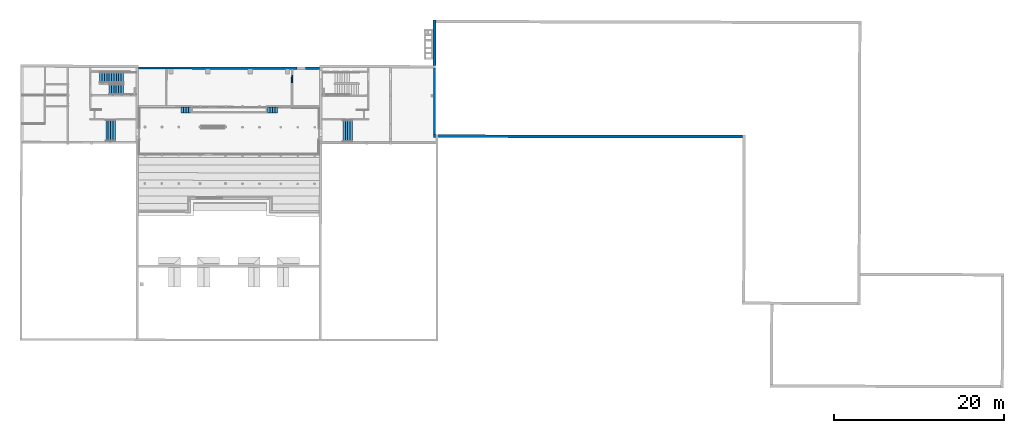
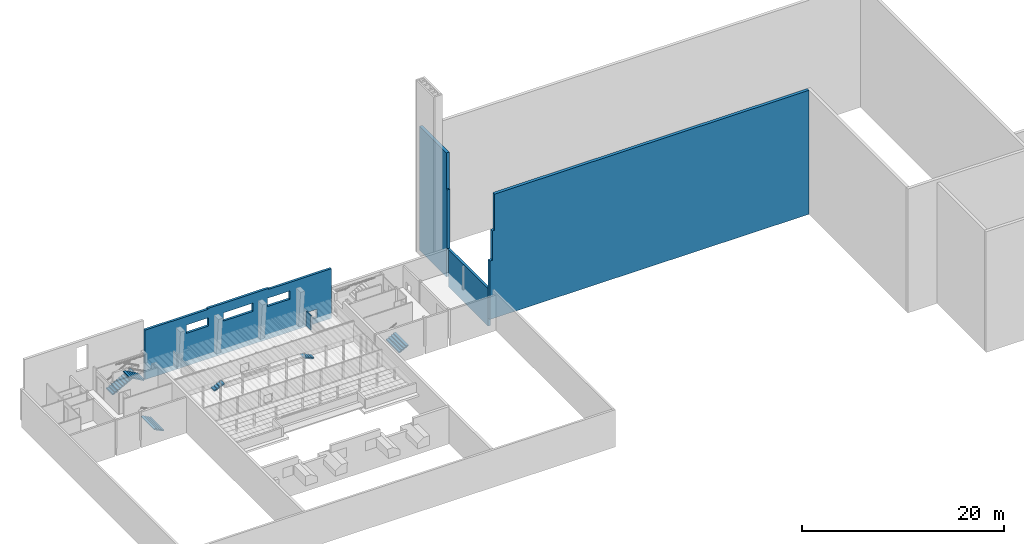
# One storey, part 19 of 24: 6 stair flights, 5 walls, 5 elements without a shape of their own.
"""IFC2X3 building model written with IfcOpenShell, lengths in metres."""

from ifc_helpers import new_model, entity, si_unit, converted_unit, derived_unit, direction, frame, origin, place, context, subcontext, project, spatial, faceted_brep, material, layer, layer_set, type_object, element, aggregate, save


model = new_model("IFC2X3")

# Units and contexts
model_context = context("Model", 3, precision=1e-05, world=origin(), true_north=direction((6.123233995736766e-17, 1.0)))
body_context = subcontext(model_context, "Body", "Model", "MODEL_VIEW")
ifc_project = project(units=[si_unit("LENGTHUNIT", "METRE"), si_unit("AREAUNIT", "SQUARE_METRE"), converted_unit("PLANEANGLEUNIT", "DEGREE", entity("IfcPlaneAngleMeasure", 0.017453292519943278), si_unit("PLANEANGLEUNIT", "RADIAN"), dimensions=[0, 0, 0, 0, 0, 0, 0]), derived_unit("THERMALTRANSMITTANCEUNIT", [(si_unit("MASSUNIT", "GRAM", prefix="KILO"), 1), (si_unit("THERMODYNAMICTEMPERATUREUNIT", "KELVIN"), -1), (si_unit("TIMEUNIT", "SECOND"), -3)])], contexts=[model_context])

# Site, building, storey
site_placement = place(None, frame((1253.6752467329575, 2072.143113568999, 91.49999999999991), z_axis=(0.0, 0.0, 1.0), x_axis=(0.7237211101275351, 0.6900925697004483, 0.0)))
site = spatial("IfcSite", under=ifc_project, at=site_placement, Name="Surface", CompositionType="ELEMENT")
building_placement = place(site_placement, origin())
building = spatial("IfcBuilding", under=site, at=building_placement, CompositionType="ELEMENT")
storey_placement = place(building_placement, frame((0.0, 0.0, -7.049999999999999)))
storey = spatial("IfcBuildingStorey", under=building, at=storey_placement, Name="R-1", CompositionType="ELEMENT", Elevation=-7.049999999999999)

# Walls
ifc_material_1 = material(Name="OMD_Béton blanc")
ifc_layer_1 = layer(ifc_material_1, 0.35)
ifc_layer_set_1 = layer_set([ifc_layer_1], Name="Mur de base:MUR 35")
wall_type_1 = type_object("IfcWallType", Name="Mur de base:MUR 35", PredefinedType="STANDARD", material=ifc_layer_set_1)
wall_1_placement = place(storey_placement, frame((201.31510153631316, -6.084871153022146, 0.0), z_axis=(0.0, 0.0, 1.0), x_axis=(0.6919753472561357, 0.7219211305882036, 0.0)))
element("IfcWall", 1, at=wall_1_placement, inside=storey, type_object=wall_type_1, Name="Mur de base:MUR 35", ObjectType="Mur de base:MUR 35", context=body_context, shape_type="Brep", body=[
    faceted_brep([(0.1761861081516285, -0.17500000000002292, 0.0), (5.16187984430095, -0.1750000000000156, 0.0), (5.511879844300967, -0.17500000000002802, 0.0), (5.511879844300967, -0.17500000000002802, 14.949999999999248), (5.16187984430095, -0.1750000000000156, 14.94999999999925), (0.17524036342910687, -0.17500000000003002, 14.949999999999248), (0.1752403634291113, -0.17500000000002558, 10.599999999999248), (0.0, -0.17500000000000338, 10.59999999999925), (0.0, -0.17500000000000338, 3.4999999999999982), (0.17618610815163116, -0.17500000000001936, 3.4999999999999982), (0.17618610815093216, 0.1749999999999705, 0.0), (0.17618610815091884, 0.1749999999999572, 3.4999999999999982), (0.0, 0.1749999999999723, 3.4999999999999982), (0.0, 0.1749999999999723, 10.599999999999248), (0.17475996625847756, 0.17499999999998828, 10.59999999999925), (0.17475996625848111, 0.17499999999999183, 14.949999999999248), (0.2059515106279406, 0.1749999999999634, 14.949999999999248), (0.25595154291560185, 0.1749999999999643, 14.949999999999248), (5.511879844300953, 0.1749999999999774, 14.949999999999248), (5.511879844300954, 0.17499999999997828, 0.0), (0.17618610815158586, -0.14126202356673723, 3.4999999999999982)], [[[0, 1, 2, 3, 4, 5, 6, 7, 8, 9]], [[10, 11, 12, 13, 14, 15, 16, 17, 18, 19]], [[5, 4, 3, 18, 17, 16, 15]], [[2, 1, 0, 10, 19]], [[3, 2, 19, 18]], [[8, 12, 11, 20, 9]], [[7, 13, 12, 8]], [[6, 14, 13, 7]], [[0, 9, 20, 11, 10]], [[6, 5, 15, 14]]]),
])
wall_2_placement = place(storey_placement, frame((221.90692549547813, -37.0680087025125, 0.0), z_axis=(0.0, 0.0, 1.0), x_axis=(-0.7228702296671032, 0.6909838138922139, 0.0)))
element("IfcWall", 2, at=wall_2_placement, inside=storey, type_object=wall_type_1, Name="Mur de base:MUR 35", ObjectType="Mur de base:MUR 35", context=body_context, shape_type="Brep", body=[
    faceted_brep([(35.86785067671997, -0.17499999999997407, 14.94999999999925), (0.0, -0.17500000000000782, 14.94999999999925), (0.0, -0.17500000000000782, 0.0), (36.41255934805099, -0.17500000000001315, 0.0), (36.41255934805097, -0.17499999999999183, 3.4999999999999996), (36.412559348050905, -0.17499999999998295, 7.0499999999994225), (36.11255934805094, -0.1750000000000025, 7.0499999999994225), (36.11255934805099, -0.1749999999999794, 10.59999999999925), (35.86785067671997, -0.17499999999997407, 10.599999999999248), (0.0004803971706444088, 0.17500000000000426, 14.94999999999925), (35.86785067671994, 0.17499999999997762, 14.94999999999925), (35.86785067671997, 0.17500000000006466, 10.59999999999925), (36.11255934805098, 0.17499999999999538, 10.599999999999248), (36.112559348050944, 0.1749999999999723, 7.0499999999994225), (36.217850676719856, 0.17499999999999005, 7.0499999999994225), (36.412559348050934, 0.1750000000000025, 7.0499999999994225), (36.41255934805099, 0.1749999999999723, 0.0), (0.0004803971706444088, 0.17500000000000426, 0.0), (35.86785067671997, 0.0, 14.94999999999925), (36.11255934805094, -0.1306271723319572, 7.0499999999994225), (36.112559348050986, -0.13062717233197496, 10.59999999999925), (35.86785067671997, 0.0, 10.59999999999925)], [[[0, 1, 2, 3, 4, 5, 6, 7, 8]], [[9, 10, 11, 12, 13, 14, 15, 16, 17]], [[1, 0, 18, 10, 9]], [[3, 2, 17, 16]], [[2, 1, 9, 17]], [[6, 5, 15, 14, 13, 19]], [[8, 7, 20, 12, 11, 21]], [[3, 16, 15, 5, 4]], [[7, 6, 19, 13, 12, 20]], [[10, 18, 0, 8, 21, 11]]]),
])
ifc_layer_2 = layer(ifc_material_1, 0.25999999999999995)
ifc_layer_set_2 = layer_set([ifc_layer_2], Name="Mur de base:MUR 26")
wall_type_2 = type_object("IfcWallType", Name="Mur de base:MUR 26", PredefinedType="STANDARD", material=ifc_layer_set_2)
wall_3_placement = place(storey_placement, frame((201.23797613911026, -6.182203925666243, -1.0), z_axis=(0.0, 0.0, 1.0), x_axis=(-0.6909838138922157, -0.7228702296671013, 0.0)))
element("IfcWall", 3, at=wall_3_placement, inside=storey, type_object=wall_type_2, Name="Mur de base:MUR 26", ObjectType="Mur de base:MUR 26", context=body_context, shape_type="Brep", body=[
    faceted_brep([(0.0, -0.12999999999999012, 0.0), (7.86951933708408, -0.12999999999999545, 0.0), (7.86951933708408, -0.12999999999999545, 1.0), (7.86951933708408, -0.12999999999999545, 4.499999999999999), (2.6088921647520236, -0.13000000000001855, 4.499999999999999), (1.0588921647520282, -0.12999999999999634, 4.499999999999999), (0.0, -0.12999999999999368, 4.499999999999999), (0.0003568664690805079, 0.1299999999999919, 0.0), (0.0003568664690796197, 0.129999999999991, 4.499999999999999), (7.869519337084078, 0.130000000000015, 4.499999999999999), (7.86951933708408, 0.130000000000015, 0.0), (-0.17500781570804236, -0.129999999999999, 4.499999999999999), (-0.17500781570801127, 0.12999999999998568, 4.499999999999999)], [[[0, 1, 2, 3, 4, 5, 6]], [[7, 8, 9, 10]], [[11, 6, 5, 4, 3, 9, 8, 12]], [[1, 0, 7, 10]], [[11, 12, 8, 6]], [[0, 6, 8, 7]], [[1, 10, 9, 3, 2]]]),
])
ifc_layer_3 = layer(ifc_material_1, 0.12999999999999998)
ifc_layer_set_3 = layer_set([ifc_layer_3], Name="Mur de base:MUR 13")
wall_type_3 = type_object("IfcWallType", Name="Mur de base:MUR 13", PredefinedType="STANDARD", material=ifc_layer_set_3)
wall_4_placement = place(storey_placement, frame((188.48342246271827, 4.766489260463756, 0.6500000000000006), z_axis=(0.0, 0.0, 1.0), x_axis=(-0.6919753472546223, -0.7219211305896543, 0.0)))
element("IfcWall", 4, at=wall_4_placement, inside=storey, type_object=wall_type_3, Name="Mur de base:MUR 13", ObjectType="Mur de base:MUR 13", context=body_context, shape_type="Brep", body=[
    faceted_brep([(0.8999999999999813, -0.0650000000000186, 1.7427777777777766), (0.0, -0.0650000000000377, 1.7427777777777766), (0.0, -0.06500000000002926, 0.0), (0.8999999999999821, -0.06500000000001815, 0.0), (0.0, 0.0649999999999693, 1.7427777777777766), (0.899999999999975, 0.06499999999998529, 1.7427777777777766), (0.8999999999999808, 0.06499999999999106, 0.0), (0.0, 0.06499999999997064, 0.0)], [[[0, 1, 2, 3]], [[4, 5, 6, 7]], [[3, 6, 5, 0]], [[7, 2, 1, 4]], [[6, 3, 2, 7]], [[1, 0, 5, 4]]]),
])
ifc_layer_4 = layer(ifc_material_1, 0.27)
ifc_layer_set_4 = layer_set([ifc_layer_4], Name="Mur de base:MUR 27")
wall_type_4 = type_object("IfcWallType", Name="Mur de base:MUR 27", PredefinedType="STANDARD", material=ifc_layer_set_4)
wall_5_placement = place(storey_placement, frame((176.00588545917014, 17.84849499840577, 0.0), z_axis=(0.0, 0.0, 1.0), x_axis=(0.7228702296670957, -0.6909838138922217, 0.0)))
element("IfcWall", 5, at=wall_5_placement, inside=storey, type_object=wall_type_4, Name="Mur de base:MUR 27", ObjectType="Mur de base:MUR 27", context=body_context, shape_type="Brep", body=[
    faceted_brep([(21.28624026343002, -0.13500000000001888, 5.9781175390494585), (14.117179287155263, -0.1350000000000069, 5.9781175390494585), (14.117179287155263, -0.1350000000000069, 6.096699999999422), (7.182229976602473, -0.134999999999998, 6.096699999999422), (7.182229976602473, -0.134999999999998, 5.978117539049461), (0.0, -0.13499999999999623, 5.978117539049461), (0.0, -0.13499999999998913, 0.0), (3.205054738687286, -0.134999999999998, 0.0), (3.335054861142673, -0.13500000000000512, 0.0), (17.9950547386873, -0.13500000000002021, 0.0), (18.125054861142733, -0.1350000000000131, 0.0), (21.286240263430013, -0.135000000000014, 0.0), (14.008519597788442, -0.1349999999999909, 3.9503999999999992), (14.008519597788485, -0.13500000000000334, 4.950399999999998), (16.538519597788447, -0.13499999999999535, 4.950399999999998), (16.538519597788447, -0.13499999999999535, 3.9503999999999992), (4.7431264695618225, -0.1349999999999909, 3.9499999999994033), (4.7431264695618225, -0.1349999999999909, 4.949999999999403), (7.2731264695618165, -0.134999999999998, 4.949999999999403), (7.273126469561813, -0.13499999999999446, 3.9499999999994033), (8.95847273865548, -0.1349999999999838, 3.9499999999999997), (8.95847273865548, -0.13499999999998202, 4.949999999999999), (12.328472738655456, -0.13499999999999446, 4.949999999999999), (12.328472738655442, -0.13499999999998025, 3.9499999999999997), (19.64293058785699, -0.13499999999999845, 1.6500000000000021), (19.642930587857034, -0.13499999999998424, 0.6500000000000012), (18.642930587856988, -0.13500000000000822, 0.6500000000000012), (18.642930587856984, -0.13500000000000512, 1.6500000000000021), (14.116808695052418, 0.1350000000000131, 5.9781175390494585), (21.28637159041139, 0.13499999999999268, 5.9781175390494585), (21.28637159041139, 0.13499999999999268, 5.969999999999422), (21.286371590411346, 0.13500000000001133, 0.0), (0.0, 0.13499999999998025, 0.0), (0.0, 0.13500000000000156, 5.978117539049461), (7.182600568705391, 0.13499999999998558, 5.978117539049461), (7.182600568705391, 0.13499999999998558, 6.096699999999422), (14.116808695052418, 0.1350000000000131, 6.096699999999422), (14.00851959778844, 0.13499999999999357, 4.950399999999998), (14.008519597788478, 0.13500000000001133, 3.9503999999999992), (16.538519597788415, 0.13499999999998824, 3.9503999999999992), (16.538519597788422, 0.13499999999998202, 4.950399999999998), (4.743126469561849, 0.1350000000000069, 4.949999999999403), (4.743126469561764, 0.13499999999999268, 3.9499999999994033), (7.273126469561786, 0.13499999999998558, 3.9499999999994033), (7.273126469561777, 0.13499999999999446, 4.949999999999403), (8.958472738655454, 0.134999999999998, 4.949999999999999), (8.958472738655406, 0.13499999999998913, 3.9499999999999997), (12.328472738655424, 0.13499999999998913, 3.9499999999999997), (12.328472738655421, 0.13499999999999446, 4.949999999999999), (19.642930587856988, 0.1350000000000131, 0.6500000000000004), (19.642930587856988, 0.13500000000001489, 1.6500000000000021), (18.642930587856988, 0.13500000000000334, 1.6500000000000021), (18.64293058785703, 0.13499999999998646, 0.6500000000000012)], [[[0, 1, 2, 3, 4, 5, 6, 7, 8, 9, 10, 11], [12, 13, 14, 15], [16, 17, 18, 19], [20, 21, 22, 23], [24, 25, 26, 27]], [[28, 29, 30, 31, 32, 33, 34, 35, 36], [37, 38, 39, 40], [41, 42, 43, 44], [45, 46, 47, 48], [49, 50, 51, 52]], [[1, 0, 29, 28]], [[11, 10, 9, 8, 7, 6, 32, 31]], [[0, 11, 31, 30, 29]], [[37, 13, 12, 38]], [[38, 12, 15, 39]], [[39, 15, 14, 40]], [[13, 37, 40, 14]], [[41, 17, 16, 42]], [[42, 16, 19, 43]], [[43, 19, 18, 44]], [[17, 41, 44, 18]], [[6, 5, 33, 32]], [[45, 21, 20, 46]], [[46, 20, 23, 47]], [[47, 23, 22, 48]], [[21, 45, 48, 22]], [[3, 2, 36, 35]], [[5, 4, 34, 33]], [[4, 3, 35, 34]], [[2, 1, 28, 36]], [[24, 50, 49, 25]], [[25, 49, 52, 26]], [[26, 52, 51, 27]], [[50, 24, 27, 51]]]),
])

# Stair, stair flight
type_product_1 = type_object("IfcTypeProduct")
stair_1_placement = place(storey_placement, origin())
stair_1 = element("IfcStair", 6, at=stair_1_placement, inside=storey, type_object=type_product_1, Name="Escalier coulé sur place:Escalier", ShapeType="STRAIGHT_RUN_STAIR")
ifc_material_2 = material(Name="<Unnamed>")
stair_flight_type = type_object("IfcStairFlightType", Name="Volée monobloc:Nez de marche 5 mm", PredefinedType="STRAIGHT")
stair_flight_1_placement = place(stair_1_placement, frame((167.22680691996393, 13.48290155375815, 0.0)))
stair_flight_1 = element("IfcStairFlight", 7, at=stair_flight_1_placement, type_object=stair_flight_type, material=ifc_material_2, Name="Escalier coulé sur place:Escalier:3285199 Run 1", ObjectType="Volée monobloc:Nez de marche 5 mm", NumberOfRiser=5, NumberOfTreads=4, RiserHeight=0.4790026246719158, TreadLength=0.9186351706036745, context=body_context, shape_type="Brep", body=[
    faceted_brep([(0.6028041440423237, 0.19375309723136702, 0.1460000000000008), (0.8049420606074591, 0.0, 0.1460000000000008), (2.593701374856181, 1.866169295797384, 0.1460000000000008), (2.391563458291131, 2.0599223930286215, 0.1460000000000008), (0.6028041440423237, 0.19375309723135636, 0.0557775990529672), (0.6800285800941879, 0.11973198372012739, 0.0), (0.8049420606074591, 0.0, 0.0), (2.593701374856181, 1.866169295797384, 0.0), (2.468787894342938, 1.9859012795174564, 0.0), (2.3915634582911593, 2.0599223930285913, 0.05577759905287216), (0.40066622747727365, 0.38750619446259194, 0.2919999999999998), (0.602804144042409, 0.1937530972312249, 0.2919999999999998), (2.391563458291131, 2.059922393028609, 0.2919999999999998), (2.1894255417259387, 2.2536754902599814, 0.2919999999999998), (0.4006662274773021, 0.38750619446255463, 0.2017775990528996), (2.1894255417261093, 2.253675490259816, 0.20177759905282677), (0.19852831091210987, 0.5812592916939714, 0.4379999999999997), (0.40066622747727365, 0.38750619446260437, 0.4379999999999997), (2.189425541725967, 2.2536754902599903, 0.4379999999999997), (1.9872876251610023, 2.4474285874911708, 0.4379999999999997), (0.19852831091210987, 0.5812592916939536, 0.34777759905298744), (1.987287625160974, 2.4474285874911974, 0.3477775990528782), (0.0, 0.7715525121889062, 0.5839999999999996), (0.19852831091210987, 0.5812592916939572, 0.5839999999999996), (1.987287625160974, 2.447428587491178, 0.5839999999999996), (1.788759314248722, 2.6377218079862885, 0.5839999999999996), (0.0, 0.7715525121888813, 0.49117045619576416), (1.788759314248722, 2.6377218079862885, 0.4911704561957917)], [[[0, 1, 2, 3]], [[1, 0, 4, 5, 6]], [[2, 1, 6, 7]], [[3, 2, 7, 8, 9]], [[10, 11, 12, 13]], [[11, 10, 14, 4, 0]], [[0, 3, 12, 11]], [[13, 12, 3, 9, 15]], [[16, 17, 18, 19]], [[17, 16, 20, 14, 10]], [[10, 13, 18, 17]], [[19, 18, 13, 15, 21]], [[22, 23, 24, 25]], [[23, 22, 26, 20, 16]], [[16, 19, 24, 23]], [[25, 24, 19, 21, 27]], [[22, 25, 27, 26]], [[7, 6, 5, 8]], [[8, 5, 4, 14, 20, 26, 27, 21, 15, 9]]]),
])
aggregate(stair_1, [stair_flight_1])

stair_2_placement = place(storey_placement, origin())
stair_2 = element("IfcStair", 8, at=stair_2_placement, inside=storey, type_object=type_product_1, Name="Escalier coulé sur place:Escalier", ShapeType="STRAIGHT_RUN_STAIR")
stair_flight_2_placement = place(stair_2_placement, frame((187.41370287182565, -5.813504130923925, 0.0)))
stair_flight_2 = element("IfcStairFlight", 9, at=stair_flight_2_placement, type_object=stair_flight_type, material=ifc_material_2, Name="Escalier coulé sur place:Escalier:3285236 Run 1", ObjectType="Volée monobloc:Nez de marche 5 mm", NumberOfRiser=5, NumberOfTreads=4, RiserHeight=0.4790026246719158, TreadLength=0.9186351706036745, context=body_context, shape_type="Brep", body=[
    faceted_brep([(1.9885998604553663, 2.4455942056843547, 0.1460000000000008), (1.7861961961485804, 2.639069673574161, 0.1460000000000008), (0.0, 0.7704469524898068, 0.1460000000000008), (0.20240366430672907, 0.5769714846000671, 0.1460000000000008), (0.0, 0.7704469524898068, 0.0), (0.12507770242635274, 0.6508865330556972, 0.0), (0.2024036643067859, 0.5769714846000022, 0.055777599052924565), (1.7861961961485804, 2.639069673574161, 0.0), (1.9885998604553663, 2.4455942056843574, 0.05577759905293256), (1.9112738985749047, 2.519509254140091, 0.0), (2.1910035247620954, 2.252118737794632, 0.2919999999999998), (1.9885998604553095, 2.445594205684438, 0.2919999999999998), (0.20240366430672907, 0.576971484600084, 0.2919999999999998), (0.40480732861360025, 0.38349601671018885, 0.2919999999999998), (0.404807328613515, 0.38349601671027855, 0.20177759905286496), (2.1910035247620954, 2.2521187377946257, 0.20177759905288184), (2.393407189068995, 2.0586432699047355, 0.4379999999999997), (2.191003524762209, 2.2521187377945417, 0.4379999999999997), (0.40480732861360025, 0.38349601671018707, 0.4379999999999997), (0.6072109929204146, 0.190020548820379, 0.4379999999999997), (0.6072109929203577, 0.19002054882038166, 0.34777759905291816), (2.393407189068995, 2.0586432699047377, 0.34777759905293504), (2.592196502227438, 1.8686227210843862, 0.5839999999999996), (2.393407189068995, 2.0586432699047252, 0.5839999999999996), (0.6072109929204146, 0.190020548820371, 0.5839999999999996), (0.8060003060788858, 0.0, 0.5839999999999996), (0.8060003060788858, 0.0, 0.4911704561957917), (2.5921965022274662, 1.8686227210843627, 0.4911704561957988)], [[[0, 1, 2, 3]], [[3, 2, 4, 5, 6]], [[2, 1, 7, 4]], [[1, 0, 8, 9, 7]], [[10, 11, 12, 13]], [[13, 12, 3, 6, 14]], [[0, 3, 12, 11]], [[11, 10, 15, 8, 0]], [[16, 17, 18, 19]], [[19, 18, 13, 14, 20]], [[10, 13, 18, 17]], [[17, 16, 21, 15, 10]], [[22, 23, 24, 25]], [[25, 24, 19, 20, 26]], [[16, 19, 24, 23]], [[23, 22, 27, 21, 16]], [[22, 25, 26, 27]], [[4, 7, 9, 5]], [[5, 9, 8, 15, 21, 27, 26, 20, 14, 6]]]),
])
aggregate(stair_2, [stair_flight_2])

type_product_2 = type_object("IfcTypeProduct")
stair_3_placement = place(storey_placement, origin())
stair_3 = element("IfcStair", 10, at=stair_3_placement, inside=storey, type_object=type_product_2, Name="Escalier coulé sur place:Escalier", ShapeType="STRAIGHT_RUN_STAIR")
stair_flight_3_placement = place(stair_3_placement, frame((183.32513328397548, 2.7416025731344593, 0.0)))
stair_flight_3 = element("IfcStairFlight", 11, at=stair_flight_3_placement, type_object=stair_flight_type, material=ifc_material_2, Name="Escalier coulé sur place:Escalier:3285303 Run 1", ObjectType="Volée monobloc:Nez de marche 5 mm", NumberOfRiser=5, NumberOfTreads=4, RiserHeight=0.4265091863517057, TreadLength=0.9842519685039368, context=body_context, shape_type="Brep", body=[
    faceted_brep([(0.64611941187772, 0.20759260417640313, 0.1299999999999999), (0.8626957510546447, 0.0, 0.1299999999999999), (1.3471426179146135, 0.5054116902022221, 0.1299999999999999), (1.1305662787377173, 0.713004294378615, 0.1299999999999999), (0.6461194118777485, 0.20759260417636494, 0.042811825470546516), (0.7174427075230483, 0.13922784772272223, 0.0), (0.8626957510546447, 0.0, 0.0), (1.3471426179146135, 0.5054116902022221, 0.0), (1.201889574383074, 0.6446395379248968, 0.0), (1.1305662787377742, 0.7130042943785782, 0.04281182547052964), (0.4295430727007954, 0.4151852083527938, 0.2599999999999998), (0.64611941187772, 0.20759260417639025, 0.2599999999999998), (1.130566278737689, 0.7130042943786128, 0.2599999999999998), (0.9139899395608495, 0.920596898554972, 0.2599999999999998), (0.42954307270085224, 0.41518520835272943, 0.17281182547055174), (0.9139899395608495, 0.9205968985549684, 0.17281182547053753), (0.21296673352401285, 0.6227778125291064, 0.3028118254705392), (0.0, 0.8269105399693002, 0.43064515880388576), (0.4844468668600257, 1.3323222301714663, 0.4306451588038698), (0.6974136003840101, 1.128189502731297, 0.30281182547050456), (0.21296673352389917, 0.6227778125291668, 0.39000000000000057), (0.4295430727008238, 0.4151852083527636, 0.39000000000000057), (0.9139899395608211, 0.9205968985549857, 0.39000000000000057), (0.6974136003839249, 1.128189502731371, 0.39000000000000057), (0.0, 0.8269105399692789, 0.5199999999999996), (0.21296673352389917, 0.6227778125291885, 0.5199999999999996), (0.6974136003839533, 1.1281895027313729, 0.5199999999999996), (0.48444686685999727, 1.3323222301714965, 0.5199999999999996)], [[[0, 1, 2, 3]], [[1, 0, 4, 5, 6]], [[2, 1, 6, 7]], [[3, 2, 7, 8, 9]], [[10, 11, 12, 13]], [[11, 10, 14, 4, 0]], [[0, 3, 12, 11]], [[13, 12, 3, 9, 15]], [[7, 6, 5, 8]], [[8, 5, 4, 14, 16, 17, 18, 19, 15, 9]], [[20, 21, 22, 23]], [[21, 20, 16, 14, 10]], [[10, 13, 22, 21]], [[23, 22, 13, 15, 19]], [[24, 25, 26, 27]], [[25, 24, 17, 16, 20]], [[20, 23, 26, 25]], [[27, 26, 23, 19, 18]], [[24, 27, 18, 17]]]),
])
aggregate(stair_3, [stair_flight_3])

stair_4_placement = place(storey_placement, origin())
stair_4 = element("IfcStair", 12, at=stair_4_placement, inside=storey, type_object=type_product_2, Name="Escalier coulé sur place:Escalier", ShapeType="STRAIGHT_RUN_STAIR")
stair_flight_4_placement = place(stair_4_placement, frame((175.95572253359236, 9.786044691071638, 0.0)))
stair_flight_4 = element("IfcStairFlight", 13, at=stair_flight_4_placement, type_object=stair_flight_type, material=ifc_material_2, Name="Escalier coulé sur place:Escalier:3285306 Run 1", ObjectType="Volée monobloc:Nez de marche 5 mm", NumberOfRiser=5, NumberOfTreads=4, RiserHeight=0.4265091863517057, TreadLength=0.9842519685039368, context=body_context, shape_type="Brep", body=[
    faceted_brep([(0.7002030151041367, 1.1242815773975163, 0.1299999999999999), (0.4830576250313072, 1.3312788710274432, 0.1299999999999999), (0.0, 0.8245392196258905, 0.1299999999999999), (0.2171453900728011, 0.6175419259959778, 0.1299999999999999), (0.0, 0.8245392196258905, 0.0), (0.1456346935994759, 0.6857106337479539, 0.0), (0.2171453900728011, 0.6175419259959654, 0.04281182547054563), (0.4830576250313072, 1.3312788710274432, 0.0), (0.7002030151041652, 1.1242815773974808, 0.04281182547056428), (0.6286923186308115, 1.192450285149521, 0.0), (0.9173484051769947, 0.9172842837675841, 0.2599999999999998), (0.7002030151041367, 1.124281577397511, 0.2599999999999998), (0.2171453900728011, 0.6175419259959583, 0.2599999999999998), (0.4342907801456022, 0.41054463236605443, 0.2599999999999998), (0.4342907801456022, 0.4105446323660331, 0.17281182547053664), (0.9173484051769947, 0.9172842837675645, 0.17281182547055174), (1.1344937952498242, 0.7102869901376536, 0.3028118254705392), (1.348020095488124, 0.5067396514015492, 0.4306451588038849), (0.8649624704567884, 0.0, 0.43064515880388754), (0.6514361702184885, 0.2035473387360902, 0.3028118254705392), (1.1344937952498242, 0.7102869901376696, 0.39000000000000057), (0.9173484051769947, 0.9172842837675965, 0.39000000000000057), (0.4342907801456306, 0.41054463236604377, 0.39000000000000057), (0.6514361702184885, 0.20354733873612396, 0.39000000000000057), (1.348020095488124, 0.506739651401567, 0.5199999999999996), (1.1344937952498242, 0.7102869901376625, 0.5199999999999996), (0.6514361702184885, 0.20354733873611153, 0.5199999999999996), (0.8649624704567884, 0.0, 0.5199999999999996)], [[[0, 1, 2, 3]], [[3, 2, 4, 5, 6]], [[2, 1, 7, 4]], [[1, 0, 8, 9, 7]], [[10, 11, 12, 13]], [[13, 12, 3, 6, 14]], [[0, 3, 12, 11]], [[11, 10, 15, 8, 0]], [[4, 7, 9, 5]], [[5, 9, 8, 15, 16, 17, 18, 19, 14, 6]], [[20, 21, 22, 23]], [[23, 22, 13, 14, 19]], [[10, 13, 22, 21]], [[21, 20, 16, 15, 10]], [[24, 25, 26, 27]], [[27, 26, 23, 19, 18]], [[20, 23, 26, 25]], [[25, 24, 17, 16, 20]], [[24, 27, 18, 17]]]),
])
aggregate(stair_4, [stair_flight_4])

# Stair, stair flights
type_product_3 = type_object("IfcTypeProduct", Name="Escalier coulé sur place:Monobloc")
stair_5_placement = place(storey_placement, origin())
stair_5 = element("IfcStair", 14, at=stair_5_placement, inside=storey, type_object=type_product_3, Name="Escalier coulé sur place:Escalier", ObjectType="Escalier coulé sur place:Monobloc", ShapeType="NOTDEFINED")
stair_flight_5_placement = place(stair_5_placement, frame((171.48854165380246, 17.839274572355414, 0.0)))
stair_flight_5 = element("IfcStairFlight", 15, at=stair_flight_5_placement, type_object=stair_flight_type, material=ifc_material_2, Name="Escalier coulé sur place:Escalier:3291574 Run 1", ObjectType="Volée monobloc:Nez de marche 5 mm", NumberOfRiser=11, NumberOfTreads=10, RiserHeight=0.5048848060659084, TreadLength=0.9186351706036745, context=body_context, shape_type="Brep", body=[
    faceted_brep([(1.066133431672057, 2.6448669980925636, 0.8838888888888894), (0.8637297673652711, 2.838342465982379, 0.8838888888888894), (0.0, 1.9347546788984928, 0.8838888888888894), (0.2024036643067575, 1.7412792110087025, 0.8838888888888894), (0.0, 1.9347546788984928, 0.7299999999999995), (0.1200652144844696, 1.8199856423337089, 0.72999999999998), (0.2024036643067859, 1.741279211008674, 0.7926024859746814), (0.8637297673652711, 2.838342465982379, 0.7299999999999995), (1.066133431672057, 2.6448669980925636, 0.7926024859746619), (0.9837949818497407, 2.723573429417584, 0.7299999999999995), (1.2685370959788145, 2.451391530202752, 1.0377777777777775), (1.0661334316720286, 2.6448669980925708, 1.0377777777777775), (0.2024036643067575, 1.7412792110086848, 1.0377777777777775), (0.404807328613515, 1.547803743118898, 1.0377777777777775), (0.4048073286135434, 1.547803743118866, 0.9464913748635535), (1.268537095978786, 2.45139153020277, 0.9464913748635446), (1.470940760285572, 2.257916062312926, 1.1916666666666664), (1.268537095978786, 2.451391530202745, 1.1916666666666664), (0.404807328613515, 1.547803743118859, 1.1916666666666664), (0.6072109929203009, 1.3543282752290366, 1.1916666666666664), (0.6072109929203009, 1.3543282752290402, 1.1003802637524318), (1.470940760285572, 2.2579160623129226, 1.1003802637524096), (1.6733444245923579, 2.0644405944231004, 1.3455555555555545), (1.470940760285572, 2.257916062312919, 1.3455555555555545), (0.6072109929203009, 1.354328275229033, 1.3455555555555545), (0.8096146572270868, 1.1608528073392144, 1.3455555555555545), (0.8096146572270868, 1.1608528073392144, 1.2542691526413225), (1.6733444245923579, 2.0644405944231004, 1.2542691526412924), (1.8757480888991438, 1.8709651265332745, 1.4994444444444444), (1.6733444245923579, 2.0644405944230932, 1.4994444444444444), (0.8096146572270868, 1.1608528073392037, 1.4994444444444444), (1.0120183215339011, 0.9673773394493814, 1.4994444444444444), (1.0120183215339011, 0.9673773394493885, 1.408158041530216), (1.8757480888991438, 1.870965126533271, 1.4081580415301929), (2.0781517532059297, 1.6774896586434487, 1.6533333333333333), (1.8757480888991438, 1.8709651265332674, 1.6533333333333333), (1.0120183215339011, 0.9673773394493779, 1.6533333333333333), (1.214421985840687, 0.7739018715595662, 1.6533333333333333), (1.214421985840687, 0.7739018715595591, 1.5620469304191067), (2.0781517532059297, 1.6774896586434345, 1.5620469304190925), (2.2805554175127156, 1.4840141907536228, 1.8072222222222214), (2.0781517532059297, 1.677489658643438, 1.8072222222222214), (1.214421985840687, 0.773901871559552, 1.8072222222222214), (1.416825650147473, 0.5804264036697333, 1.8072222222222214), (1.416825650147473, 0.5804264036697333, 1.7159358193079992), (2.2805554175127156, 1.4840141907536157, 1.715935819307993), (2.48295908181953, 1.290538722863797, 1.9611111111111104), (2.2805554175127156, 1.4840141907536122, 1.9611111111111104), (1.416825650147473, 0.5804264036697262, 1.9611111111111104), (1.6192293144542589, 0.38695093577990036, 1.9611111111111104), (1.6192293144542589, 0.38695093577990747, 1.8698247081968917), (2.48295908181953, 1.2905387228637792, 1.8698247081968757), (2.685362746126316, 1.0970632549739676, 2.1149999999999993), (2.48295908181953, 1.2905387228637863, 2.1149999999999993), (1.6192293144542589, 0.38695093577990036, 2.1149999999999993), (1.8216329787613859, 0.19347546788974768, 2.1149999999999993), (1.8216329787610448, 0.19347546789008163, 2.0237135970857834), (2.685362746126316, 1.097063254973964, 2.0237135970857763), (2.8877664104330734, 0.9035877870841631, 2.2688888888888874), (2.6853627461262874, 1.0970632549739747, 2.268888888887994), (1.8216329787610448, 0.19347546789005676, 2.268888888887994), (2.0240366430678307, 0.0, 2.2688888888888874), (2.024036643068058, 0.0, 2.1776024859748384), (2.8877664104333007, 0.9035877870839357, 2.177602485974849)], [[[0, 1, 2, 3]], [[3, 2, 4, 5, 6]], [[2, 1, 7, 4]], [[1, 0, 8, 9, 7]], [[10, 11, 12, 13]], [[13, 12, 3, 6, 14]], [[0, 3, 12, 11]], [[11, 10, 15, 8, 0]], [[16, 17, 18, 19]], [[19, 18, 13, 14, 20]], [[10, 13, 18, 17]], [[17, 16, 21, 15, 10]], [[22, 23, 24, 25]], [[25, 24, 19, 20, 26]], [[16, 19, 24, 23]], [[23, 22, 27, 21, 16]], [[28, 29, 30, 31]], [[31, 30, 25, 26, 32]], [[22, 25, 30, 29]], [[29, 28, 33, 27, 22]], [[34, 35, 36, 37]], [[37, 36, 31, 32, 38]], [[28, 31, 36, 35]], [[35, 34, 39, 33, 28]], [[40, 41, 42, 43]], [[43, 42, 37, 38, 44]], [[34, 37, 42, 41]], [[41, 40, 45, 39, 34]], [[46, 47, 48, 49]], [[49, 48, 43, 44, 50]], [[40, 43, 48, 47]], [[47, 46, 51, 45, 40]], [[52, 53, 54, 55]], [[55, 54, 49, 50, 56]], [[46, 49, 54, 53]], [[53, 52, 57, 51, 46]], [[58, 59, 60, 61]], [[61, 60, 55, 56, 62]], [[52, 55, 60, 59]], [[59, 58, 63, 57, 52]], [[58, 61, 62, 63]], [[4, 7, 9, 5]], [[5, 9, 8, 15, 21, 27, 33, 39, 45, 51, 57, 63, 62, 56, 50, 44, 38, 32, 26, 20, 14, 6]]]),
])
stair_flight_6_placement = place(stair_5_placement, frame((171.31237326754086, 16.81911138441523, 0.0)))
stair_flight_6 = element("IfcStairFlight", 16, at=stair_flight_6_placement, type_object=stair_flight_type, material=ifc_material_2, Name="Escalier coulé sur place:Escalier:3291574 Run 2", ObjectType="Volée monobloc:Nez de marche 5 mm", NumberOfRiser=7, NumberOfTreads=6, RiserHeight=0.5048848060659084, TreadLength=0.9186351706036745, context=body_context, shape_type="Brep", body=[
    faceted_brep([(1.0097260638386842, 0.19319747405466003, 2.5766666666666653), (1.2123950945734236, 0.0, 2.5766666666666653), (2.074883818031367, 0.9047724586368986, 2.5766666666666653), (1.872214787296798, 1.0979699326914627, 2.5766666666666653), (2.074883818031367, 0.9047724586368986, 2.4227777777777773), (2.074883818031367, 0.9047724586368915, 2.3314913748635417), (1.872214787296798, 1.097969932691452, 2.4853802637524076), (1.2123950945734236, 0.0, 2.4227777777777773), (1.2123950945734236, 0.0, 2.3314913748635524), (1.0097260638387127, 0.19319747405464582, 2.485380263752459), (0.8070570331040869, 0.3863949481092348, 2.7305555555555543), (1.0097260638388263, 0.19319747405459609, 2.7305555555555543), (1.872214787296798, 1.0979699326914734, 2.7305555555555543), (1.6695457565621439, 1.2911674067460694, 2.7305555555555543), (1.6695457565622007, 1.2911674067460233, 2.6392691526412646), (0.8070570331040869, 0.3863949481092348, 2.639269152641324), (0.6043880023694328, 0.5795924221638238, 2.8844444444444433), (0.8070570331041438, 0.38639494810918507, 2.8844444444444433), (1.6695457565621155, 1.2911674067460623, 2.8844444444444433), (1.4668767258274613, 1.4843648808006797, 2.8844444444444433), (1.4668767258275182, 1.4843648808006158, 2.7931580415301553), (0.604388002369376, 0.5795924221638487, 2.7931580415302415), (0.40171897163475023, 0.7727898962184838, 3.038333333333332), (0.6043880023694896, 0.5795924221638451, 3.038333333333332), (1.4668767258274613, 1.4843648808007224, 3.038333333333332), (1.2642076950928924, 1.6775623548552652, 3.038333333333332), (1.264207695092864, 1.6775623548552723, 2.9470469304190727), (0.40171897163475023, 0.7727898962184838, 2.9470469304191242), (0.19904994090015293, 0.9659873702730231, 3.192222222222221), (0.40171897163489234, 0.7727898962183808, 3.192222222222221), (1.264207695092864, 1.6775623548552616, 3.192222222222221), (1.061538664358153, 1.8707598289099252, 3.192222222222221), (1.0615386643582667, 1.8707598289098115, 3.1009358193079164), (0.19904994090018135, 0.9659873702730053, 3.1009358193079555), (0.0, 1.15573488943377, 3.346111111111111), (0.1990499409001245, 0.9659873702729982, 3.346111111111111), (1.0615386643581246, 1.8707598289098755, 3.346111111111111), (0.8624887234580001, 2.0605073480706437, 3.346111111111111), (0.8624887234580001, 2.0605073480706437, 3.2520766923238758), (0.0, 1.1557348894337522, 3.252076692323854)], [[[0, 1, 2, 3]], [[3, 2, 4, 5, 6]], [[2, 1, 7, 8, 5, 4]], [[1, 0, 9, 8, 7]], [[10, 11, 12, 13]], [[13, 12, 3, 6, 14]], [[12, 11, 0, 3]], [[11, 10, 15, 9, 0]], [[16, 17, 18, 19]], [[19, 18, 13, 14, 20]], [[18, 17, 10, 13]], [[17, 16, 21, 15, 10]], [[22, 23, 24, 25]], [[25, 24, 19, 20, 26]], [[24, 23, 16, 19]], [[23, 22, 27, 21, 16]], [[28, 29, 30, 31]], [[31, 30, 25, 26, 32]], [[30, 29, 22, 25]], [[29, 28, 33, 27, 22]], [[34, 35, 36, 37]], [[37, 36, 31, 32, 38]], [[36, 35, 28, 31]], [[35, 34, 39, 33, 28]], [[34, 37, 38, 39]], [[8, 9, 15, 21, 27, 33, 39, 38, 32, 26, 20, 14, 6, 5]]]),
])
aggregate(stair_5, [stair_flight_5, stair_flight_6])

save(model, "model.ifc")
